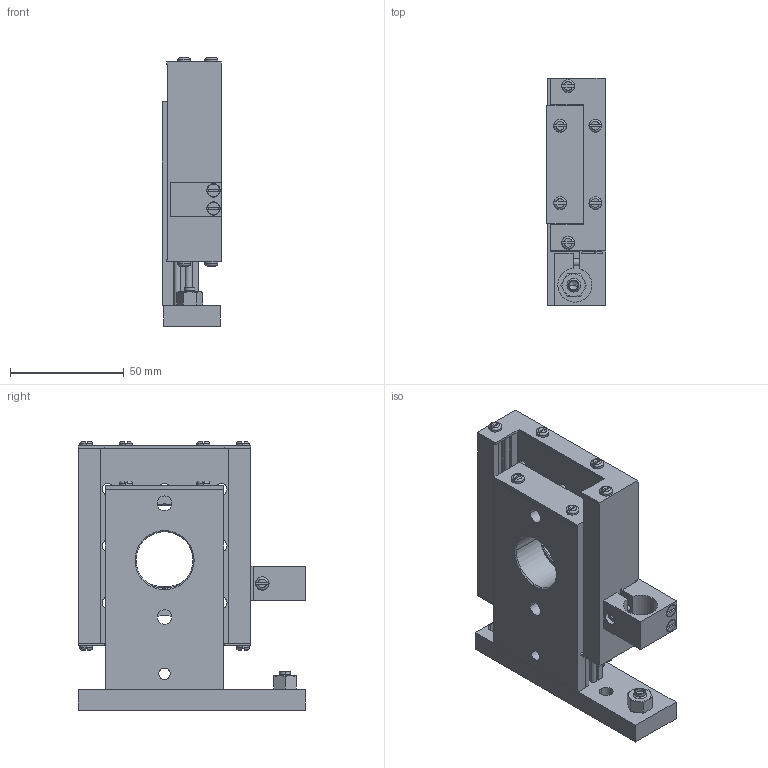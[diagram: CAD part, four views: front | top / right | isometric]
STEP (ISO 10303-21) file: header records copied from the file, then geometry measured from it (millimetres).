
FILE_DESCRIPTION((''),'2;1');
FILE_NAME('860-0030_SW0001','2014-08-01T',('Julija'),(''),'PRO/ENGINEER BY PARAMETRIC TECHNOLOGY CORPORATION, 2014090','PRO/ENGINEER BY PARAMETRIC TECHNOLOGY CORPORATION, 2014090','');
FILE_SCHEMA(('CONFIG_CONTROL_DESIGN'));
Length unit declared in the file: inch
Products named in the file (1): 860-0030_SW0001
Bounding box: 26 x 100.15 x 118.07 mm (x, y, z)
Volume: 153010.4 mm3; surface area: 60476.5 mm2
Topology: 2 solids, 2 shells, 476 faces, 1290 edges, 804 vertices
Faces by surface type: plane 215, cylinder 139, cone 90, torus 32
Entity records: 16429 total; most frequent: CARTESIAN_POINT 4221, DIRECTION 2617, ORIENTED_EDGE 2536, EDGE_CURVE 1268, AXIS2_PLACEMENT_3D 992, VERTEX_POINT 804, VECTOR 633, LINE 633
